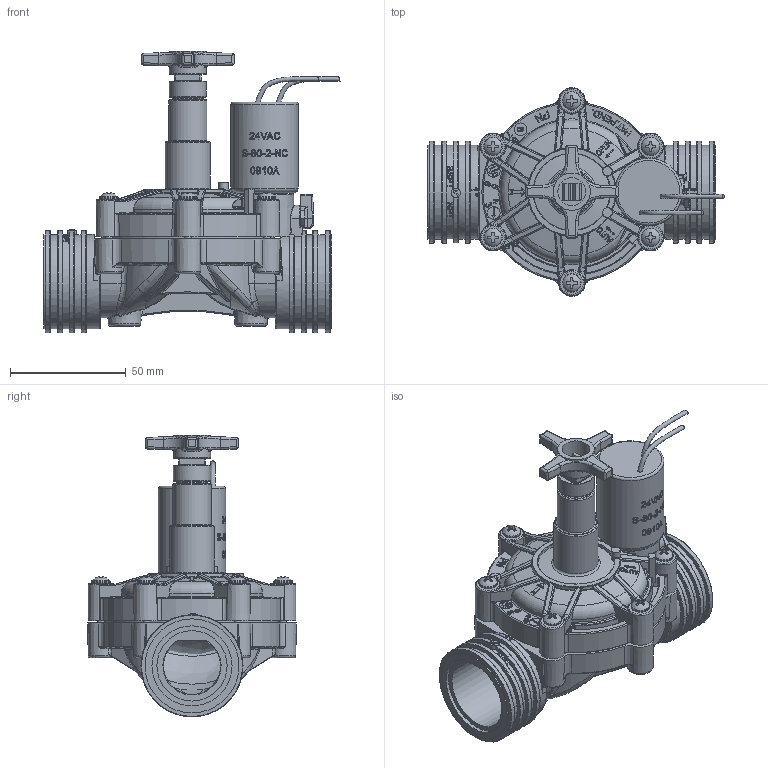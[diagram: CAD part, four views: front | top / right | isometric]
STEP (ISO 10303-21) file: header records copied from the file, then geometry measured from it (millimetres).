
FILE_DESCRIPTION((''),'2;1');
FILE_NAME('H-gal1-Th-2w-oper','2011-07-28T14:07:13',('dafnaraz'),(''),'CADlook_v12.0','Cimatron E 9.0','');
FILE_SCHEMA(('AUTOMOTIVE_DESIGN { 1 2 10303 214 0 1 1 1 }'));
Length unit declared in the file: millimetre
Products named in the file (14): H-gal1-Th-2w-oper.1; YDD00003024A51Y; Hgal1P-Th-75; mav8x1_7; throt handle; pin-ma; 9021; override561; Bonnet1P_Th-ma; 2011; stem1; disc-throt1; dia-25; Body1P-ma
Assembly tree (18 placements, depth 3):
  H-gal1-Th-2w-oper.1
    YDD00003024A51Y
    Hgal1P-Th-75
      mav8x1_7  x6
      throt handle
      pin-ma
      9021
      override561
      Bonnet1P_Th-ma
      2011
      stem1
      disc-throt1
      dia-25
      Body1P-ma
Bounding box: 127.64 x 90 x 121.49 mm (x, y, z)
Volume: 132436.2 mm3; surface area: 102575.7 mm2
Topology: 17 solids, 26 shells, 4579 faces, 12968 edges, 10122 vertices
Faces by surface type: bspline 1399, plane 1213, cylinder 1181, torus 468, sphere 179, cone 139
Full cylindrical faces by diameter (mm): 1.9 x1, 2 x1, 2.2 x1, 2.4 x2, 2.5 x2, 2.9 x6, 3 x2, 3.8 x6, 4 x3, 4.1 x1, 4.2 x1, 4.25 x1, 4.4 x6, 4.5 x1, 4.8 x1, 5 x1, 5.5 x4, 5.6 x1, 6.9 x1, 7 x4, 7.1 x1, 7.65 x1, 7.851 x1, 8 x6, 8.6 x3, 9 x1, 11.1 x1, 11.21 x1, 11.3 x1, 11.5 x1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
Entity records: 277182 total; most frequent: CARTESIAN_POINT 131842, ORIENTED_EDGE 21508, DIRECTION 19432, EDGE_CURVE 10768, AXIS2_PLACEMENT_3D 7453, VERTEX_POINT 6687, COLOUR_RGB 6006, PRESENTATION_STYLE_ASSIGNMENT 6006
